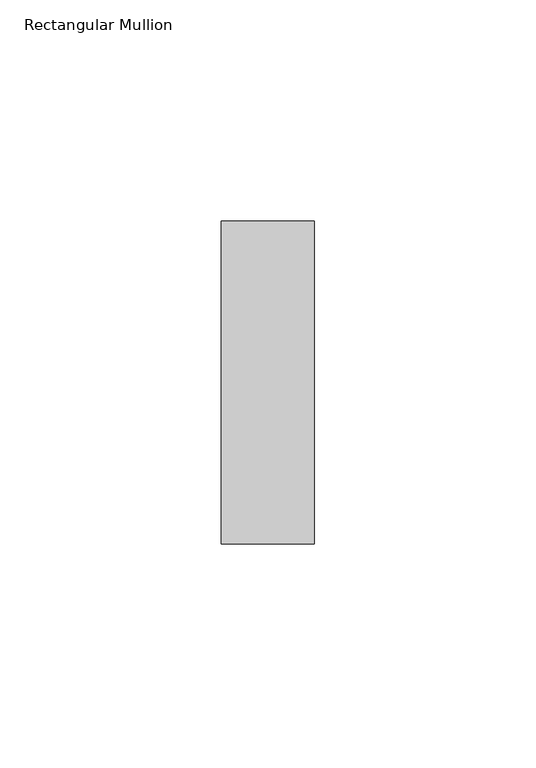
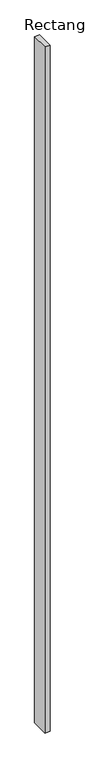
"""IFC4 building model written with IfcOpenShell, lengths in millimetres: member geometry, Rectangular Mullion : RSen_21_CWM_support profile - 21x73 - right_gen_duco projects."""

from ifc_helpers import new_model, si_unit, frame, origin, place, context, project, spatial, polyline, outline, extrude, source, transform, mapped, element, save


def rectangular_mullion_586cffca(model_context):
    return source(origin(), model_context, "Body", "SweptSolid", [
        extrude(outline(polyline([(-71.0, 1.0), (-50.0, 1.0), (-50.0, -72.0), (-71.0, -72.0), (-71.0, 1.0)])), frame((0.0, 0.0, -3000.0), z_axis=(0.0, 0.0, 1.0), x_axis=(1.0, 0.0, 0.0)), (0.0, 0.0, 1.0), 3000.0),
    ])


if __name__ == "__main__":
    model = new_model("IFC4")
    model_context = context("Model", 3, world=origin())
    ifc_project = project(units=[si_unit("LENGTHUNIT", "METRE", prefix="MILLI")], contexts=[model_context])
    site = spatial("IfcSite", under=ifc_project)
    building = spatial("IfcBuilding", under=site)
    placement = place(None, origin())
    rectangular_mullion_shape = rectangular_mullion_586cffca(model_context)
    element("IfcMember", 1, ObjectType="Rectangular Mullion : RSen_21_CWM_support profile - 21x73 - right_gen_duco projects", at=placement, inside=building, context=model_context, shape_type="MappedRepresentation", body=[
        mapped(rectangular_mullion_shape, transform((0.0, 0.0, 0.0), x_axis=(1.0, 0.0, 0.0), y_axis=(0.0, 1.0, 0.0), z_axis=(0.0, 0.0, 1.0))),
    ])
    save(model, "model.ifc")
